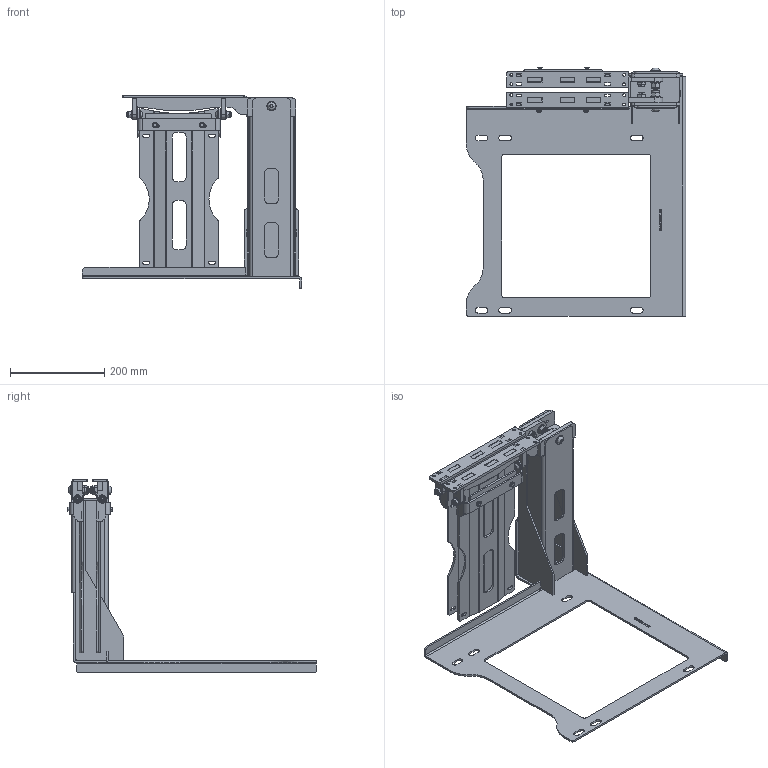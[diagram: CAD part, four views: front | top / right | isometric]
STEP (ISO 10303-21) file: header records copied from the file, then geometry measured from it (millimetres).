
FILE_DESCRIPTION(('STEP AP214'),'1');
FILE_NAME('81TAB279010A_TABLETTE DOUBLE GAUCHE.stp','2026-02-04T09:56:43',(' '),(' '),'Spatial InterOp 3D',' ',' ');
FILE_SCHEMA(('AUTOMOTIVE_DESIGN { 1 0 10303 214 1 1 1 1 }'));
Length unit declared in the file: millimetre
Products named in the file (34): 81TAB279011A_CHASSIS DOUBLE GAUCHE; 81TAB001014B_RENFORT D'AXE; 81TAB279111C_BASE CHASSIS DOUBLE; 81TAB279114A_BUTEE DOUBLE; 81TAB279113D_MONTANT INTER.DOUBLE; 81TAB279102C_MONTANT EXTER.DOUBLE; 81TAB279010A_TABLETTE DOUBLE GAUCHE; 81TAB001024A_PIVOT ACCOUDOIRE DR; 81TAB001204A_PIVOT TABLETTE; 81TAB001203B_CORPS; 81TAB001202A_PLAQUE SUPPERIEURE; 81TAB001020A_ACCOUDOIR TABLETTE DR; Rondelle Plate Inox; Vis BHC Acier ISO7380; Ecrou H Autofreiné Acier  ISO 7040; 81TAB001051A_PIVOT ACCOUDOIRE GCHE; 81TAB001050A_ACCOUDOIRE TABLETTE GCHE; 81TAB001033A_OSS. TABLETTE RABATTABLE; 81TAB001303C_CORPS OSSATURE; 81TAB001304B_ARTICULATION OSSATURE; 81TAB001030A_TABLETTE RABATTABLE DROITE; 81TAB001032A_BUTEE; Ecrou Noyé Tef FHO Inox; 81TAB001302C_TOLE BUTEE; Vis H Embase Acier Zingué ISO 4161; Vis Poussoir à Bille Orientable Sans Tête Avec Fente NORELEM 03000-212; Ecrou Hm Acier Zingué ISO 4035; 81TAB001060A_TABLETTE RABATTABLE GAUCHE
Assembly tree (67 placements, depth 4):
  81TAB001014B_RENFORT D'AXE
  81TAB279010A_TABLETTE DOUBLE GAUCHE
    81TAB279011A_CHASSIS DOUBLE GAUCHE
      81TAB279111C_BASE CHASSIS DOUBLE
      81TAB279114A_BUTEE DOUBLE
      81TAB279113D_MONTANT INTER.DOUBLE
      81TAB279102C_MONTANT EXTER.DOUBLE
    81TAB001020A_ACCOUDOIR TABLETTE DR
      81TAB001024A_PIVOT ACCOUDOIRE DR
        81TAB001024A_PIVOT ACCOUDOIRE DR
        81TAB001204A_PIVOT TABLETTE  x2
        81TAB001203B_CORPS
        81TAB001202A_PLAQUE SUPPERIEURE
    Rondelle Plate Inox  x12
    Rondelle Plate Inox  x4
    Vis BHC Acier ISO7380  x4
    Vis BHC Acier ISO7380  x2
    Ecrou H Autofreiné Acier  ISO 7040  x4
    81TAB001050A_ACCOUDOIRE TABLETTE GCHE
      81TAB001051A_PIVOT ACCOUDOIRE GCHE
        81TAB001204A_PIVOT TABLETTE  x2
        81TAB001203B_CORPS
        81TAB001202A_PLAQUE SUPPERIEURE
    81TAB001030A_TABLETTE RABATTABLE DROITE
      81TAB001033A_OSS. TABLETTE RABATTABLE
        81TAB001303C_CORPS OSSATURE
        81TAB001304B_ARTICULATION OSSATURE
      81TAB001032A_BUTEE
        Ecrou Noyé Tef FHO Inox  x2
        81TAB001302C_TOLE BUTEE
      Vis H Embase Acier Zingué ISO 4161  x2
    Ecrou H Autofreiné Acier  ISO 7040  x2
    Vis Poussoir à Bille Orientable Sans Tête Avec Fente NORELEM 03000-212  x2
      Vis Poussoir à Bille Orientable Sans Tête Avec Fente NORELEM 03000-212
      Vis Poussoir à Bille Orientable Sans Tête Avec Fente NORELEM 03000-212
    Ecrou Hm Acier Zingué ISO 4035  x2
    81TAB001060A_TABLETTE RABATTABLE GAUCHE
      81TAB001033A_OSS. TABLETTE RABATTABLE
        81TAB001303C_CORPS OSSATURE
        81TAB001304B_ARTICULATION OSSATURE
      81TAB001032A_BUTEE
        Ecrou Noyé Tef FHO Inox  x2
        81TAB001302C_TOLE BUTEE
      Vis H Embase Acier Zingué ISO 4161  x2
Bounding box: 467 x 528.77 x 412 mm (x, y, z)
Volume: 1961463.5 mm3; surface area: 987032.2 mm2
Topology: 63 solids, 63 shells, 1633 faces, 4364 edges, 2858 vertices
Faces by surface type: plane 975, cylinder 352, cone 148, bspline 106, torus 50, sphere 2
Full cylindrical faces by diameter (mm): 4.2 x4, 5 x4, 5.5 x10, 6 x8, 6.8 x4, 7 x4, 8 x4, 8.2 x8, 8.5 x2, 8.6 x12, 8.9 x4, 10 x4, 10.2 x8, 10.8 x4, 11 x2, 11.2 x4, 12 x2, 13 x4, 16 x14, 20 x4
Entity records: 39983 total; most frequent: CARTESIAN_POINT 7314, ORIENTED_EDGE 4478, DIRECTION 4168, EDGE_CURVE 2239, VERTEX_POINT 1584, LINE 1494, VECTOR 1494, AXIS2_PLACEMENT_3D 1337
